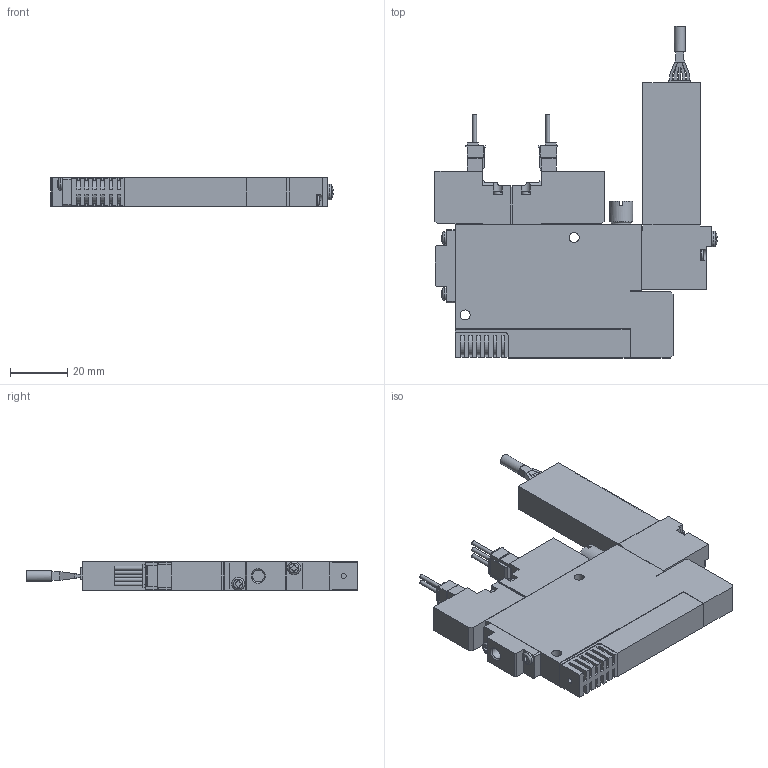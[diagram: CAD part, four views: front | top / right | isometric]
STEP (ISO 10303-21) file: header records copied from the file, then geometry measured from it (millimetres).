
FILE_DESCRIPTION(('STEP AP203'),'1');
FILE_NAME('5WS_3D.stp','2024-09-04T23:21:26',(' '),(' '),'Spatial InterOp 3D',' ',' ');
FILE_SCHEMA(('CONFIG_CONTROL_DESIGN'));
Length unit declared in the file: millimetre
Products named in the file (5): BSC1S※※V9※5WS; Solenoid valve W; Pressure Sensor V9; Unit-S; BaseSS10R
Assembly tree (4 placements, depth 2):
  BSC1S※※V9※5WS
    Solenoid valve W
    Pressure Sensor V9
    Unit-S
    BaseSS10R
Bounding box: 98.4 x 115.8 x 10 mm (x, y, z)
Volume: 56825.6 mm3; surface area: 22544.6 mm2
Topology: 4 solids, 4 shells, 522 faces, 1434 edges, 947 vertices
Faces by surface type: plane 397, cylinder 111, sphere 5, torus 5, cone 4
Full cylindrical faces by diameter (mm): 1.4 x5, 1.8 x1, 3 x4, 3.5 x8, 3.8 x1, 4.134 x3, 4.5 x2, 5.5 x2, 7 x1, 7.7 x1, 8 x1
Entity records: 16760 total; most frequent: CARTESIAN_POINT 3337, ORIENTED_EDGE 2750, DIRECTION 2632, EDGE_CURVE 1375, LINE 1084, VECTOR 1084, VERTEX_POINT 931, AXIS2_PLACEMENT_3D 774
